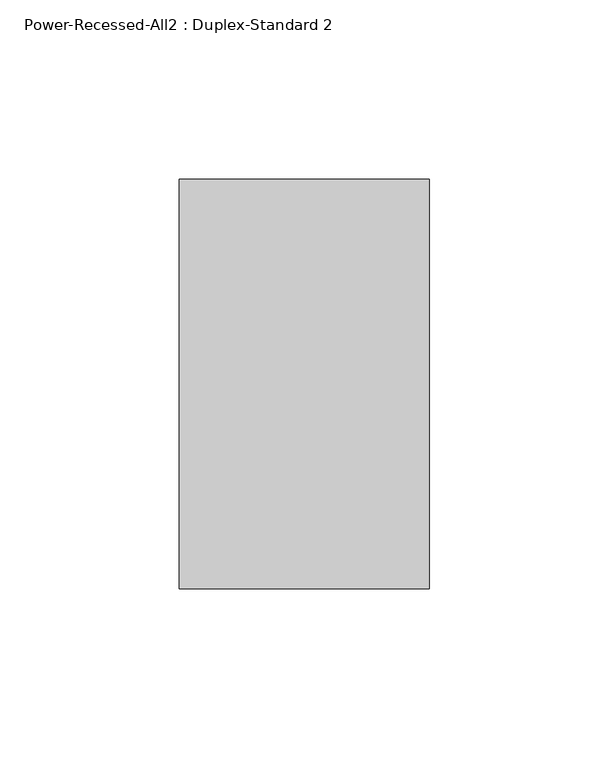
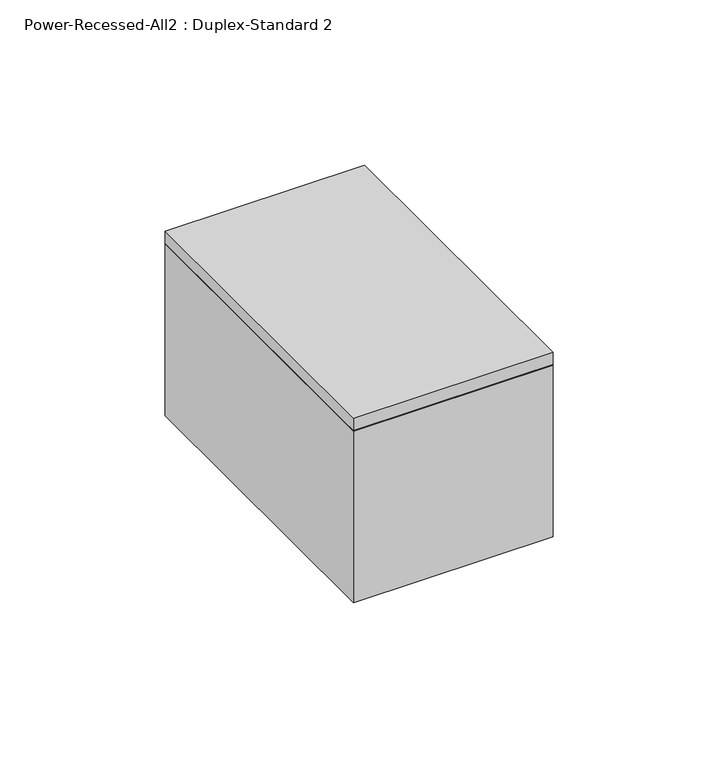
"""IFC4 building model written with IfcOpenShell, lengths in millimetres: outlet geometry, Power-Recessed-All2 : Duplex-Standard 2."""

import ifcopenshell
import ifcopenshell.guid

model = None  # the IFC model being written
_history = None  # IfcOwnerHistory: only IFC2X3 demands one
_inside = {}  # id of a spatial element -> (the spatial element, [elements in it])
_under = {}  # id of a project, library or spatial element -> (it, [spatial elements below it])
_declared = {}  # id of a project -> (the project, [libraries it declares])
_typed = {}  # id of a type object -> (the type object, [elements of that type])
_made_of = {}  # id of a material, layer set ... -> (it, [elements and type objects made of it])


def new_model(schema):
    """Start an empty IFC model of exactly this schema.

    Asked for "IFC4X3", IfcOpenShell would pick the latest addendum, in which some entities
    have other attributes; the version numbers below select the first issue.
    IFC2X3 requires an IfcOwnerHistory on every rooted entity: one is made here for all.
    """
    global model, _history
    if schema == "IFC4X3":
        model = ifcopenshell.file(schema_version=(4, 3, 0, 0))
    else:
        model = ifcopenshell.file(schema=schema)
    _inside.clear()
    _under.clear()
    _declared.clear()
    _typed.clear()
    _made_of.clear()
    _history = None
    if model.schema == "IFC2X3":
        org = make("IfcOrganization", Name="unknown")
        user = make(
            "IfcPersonAndOrganization",
            ThePerson=make("IfcPerson", FamilyName="unknown"),
            TheOrganization=org,
        )
        app = make(
            "IfcApplication",
            ApplicationDeveloper=org,
            Version="unknown",
            ApplicationFullName="unknown",
            ApplicationIdentifier="unknown",
        )
        _history = make(
            "IfcOwnerHistory",
            OwningUser=user,
            OwningApplication=app,
            ChangeAction="ADDED",
            CreationDate=0,
        )
    return model


def make(cls, **values):
    """One entity of the class cls with the attributes given. An attribute that is None is left unset."""
    return model.create_entity(
        cls, **{name: value for name, value in values.items() if value is not None}
    )


def rooted(cls, **values):
    """An entity with a GlobalId (a new one), such as an element, a storey or a relation."""
    return make(cls, GlobalId=ifcopenshell.guid.new(), OwnerHistory=_history, **values)


def si_unit(unit_type, name, prefix=None):
    """IfcSIUnit, for example si_unit("LENGTHUNIT", "METRE", prefix="MILLI")."""
    return make("IfcSIUnit", UnitType=unit_type, Prefix=prefix, Name=name)


def assignment(units):
    """IfcUnitAssignment: the units of a project."""
    return None if units is None else make("IfcUnitAssignment", Units=units)


def point(xyz):
    """IfcCartesianPoint."""
    return None if xyz is None else make("IfcCartesianPoint", Coordinates=xyz)


def direction(xyz):
    """IfcDirection."""
    return None if xyz is None else make("IfcDirection", DirectionRatios=xyz)


def frame(location, z_axis=None, x_axis=None):
    """IfcAxis2Placement3D, a coordinate frame: its origin and axes. An axis left out is left unset."""
    return make(
        "IfcAxis2Placement3D",
        Location=point(location),
        Axis=direction(z_axis),
        RefDirection=direction(x_axis),
    )


def origin():
    """The frame at (0, 0, 0) with its axes left unset."""
    return frame((0.0, 0.0, 0.0))


def origin_with_axes():
    """The frame at (0, 0, 0) with the z axis (0, 0, 1) and the x axis (1, 0, 0) written out."""
    return frame((0.0, 0.0, 0.0), z_axis=(0.0, 0.0, 1.0), x_axis=(1.0, 0.0, 0.0))


def place(relative_to, where):
    """IfcLocalPlacement: puts the frame where relative to a parent placement (None: the world)."""
    return make(
        "IfcLocalPlacement", PlacementRelTo=relative_to, RelativePlacement=where
    )


def context(
    kind, dimensions, precision=None, world=None, true_north=None, identifier=None
):
    """IfcGeometricRepresentationContext, for example the 3D "Model" context."""
    return make(
        "IfcGeometricRepresentationContext",
        ContextIdentifier=identifier,
        ContextType=kind,
        CoordinateSpaceDimension=dimensions,
        Precision=precision,
        WorldCoordinateSystem=world,
        TrueNorth=true_north,
    )


def project(units=None, contexts=None):
    """IfcProject with its units and contexts."""
    return rooted(
        "IfcProject",
        Name="project",
        RepresentationContexts=contexts,
        UnitsInContext=assignment(units),
    )


def spatial(cls, under=None, at=None, **own):
    """A site, building, storey or space (cls), placed at a placement, below another one or the project."""
    s = rooted(cls, ObjectPlacement=at, **own)
    if under is not None:
        _under.setdefault(under.id(), (under, []))[1].append(s)
    return s


def polyline(points):
    """IfcPolyline through the points."""
    return make("IfcPolyline", Points=[point(p) for p in points])


def outline(outer, holes=None, kind="AREA"):
    """IfcArbitraryClosedProfileDef: a profile drawn as a closed curve; with holes, ...WithVoids."""
    if holes is None:
        return make("IfcArbitraryClosedProfileDef", ProfileType=kind, OuterCurve=outer)
    return make(
        "IfcArbitraryProfileDefWithVoids",
        ProfileType=kind,
        OuterCurve=outer,
        InnerCurves=holes,
    )


def extrude(swept, where, along, depth):
    """IfcExtrudedAreaSolid: the profile swept, set in the frame where, extruded along a direction by depth."""
    return make(
        "IfcExtrudedAreaSolid",
        SweptArea=swept,
        Position=where,
        ExtrudedDirection=direction(along),
        Depth=depth,
    )


def shape(context_of_items, identifier, shape_type, items):
    """IfcShapeRepresentation: the items that make up one representation, for example the "Body"."""
    return make(
        "IfcShapeRepresentation",
        ContextOfItems=context_of_items,
        RepresentationIdentifier=identifier,
        RepresentationType=shape_type,
        Items=items,
    )


def source(mapping_origin, context_of_items, identifier, shape_type, items):
    """IfcRepresentationMap: a shape defined once, which mapped items show again and again."""
    return make(
        "IfcRepresentationMap",
        MappingOrigin=mapping_origin,
        MappedRepresentation=shape(context_of_items, identifier, shape_type, items),
    )


def transform(
    local_origin,
    x_axis=None,
    y_axis=None,
    z_axis=None,
    scale=None,
    scale2=None,
    scale3=None,
    uniform=True,
):
    """IfcCartesianTransformationOperator3D, or its non-uniform kind. x_axis, y_axis, z_axis: its Axis1, 2, 3."""
    if uniform:
        return make(
            "IfcCartesianTransformationOperator3D",
            Axis1=direction(x_axis),
            Axis2=direction(y_axis),
            LocalOrigin=point(local_origin),
            Scale=scale,
            Axis3=direction(z_axis),
        )
    return make(
        "IfcCartesianTransformationOperator3DnonUniform",
        Axis1=direction(x_axis),
        Axis2=direction(y_axis),
        LocalOrigin=point(local_origin),
        Scale=scale,
        Axis3=direction(z_axis),
        Scale2=scale2,
        Scale3=scale3,
    )


def mapped(mapping_source, mapping_target):
    """IfcMappedItem: shows the shape of a source again, moved by a transform."""
    return make(
        "IfcMappedItem", MappingSource=mapping_source, MappingTarget=mapping_target
    )


def made_of(thing, what):
    """Note that an element or type object is made of a material, layer set ...; save() writes the relation."""
    if what is not None:
        _made_of.setdefault(what.id(), (what, []))[1].append(thing)
    return thing


def element(
    cls,
    number,
    at=None,
    inside=None,
    cuts=None,
    type_object=None,
    material=None,
    context=None,
    identifier="Body",
    shape_type=None,
    held_by="IfcProductDefinitionShape",
    body=None,
    shapes=None,
    **own,
):
    """One element of the class cls, such as IfcWall. Its Tag is "e" and its number.

    at: its placement. inside: the storey or other place that contains it. cuts: it is an
    opening in that element (IfcRelVoidsElement). A single representation is given by context,
    identifier, shape_type and body (its items); several are given by shapes. held_by: the class
    of the entity that holds the representations. save() writes the other relations.
    """
    e = rooted(cls, Tag="e%d" % number, ObjectPlacement=at, **own)
    if body is not None:
        shapes = [shape(context, identifier, shape_type, body)]
    if shapes is not None:
        e.Representation = make(held_by, Representations=shapes)
    if inside is not None:
        _inside.setdefault(inside.id(), (inside, []))[1].append(e)
    if cuts is not None:
        rooted(
            "IfcRelVoidsElement", RelatingBuildingElement=cuts, RelatedOpeningElement=e
        )
    if type_object is not None:
        _typed.setdefault(type_object.id(), (type_object, []))[1].append(e)
    return made_of(e, material)


def aggregate(whole, parts):
    """IfcRelAggregates: a whole, such as a stair, and the parts it consists of."""
    return rooted("IfcRelAggregates", RelatingObject=whole, RelatedObjects=parts)


def save(model, path):
    """Write the relations noted so far, then the file.

    IfcRelAggregates (storeys below a building ...), IfcRelContainedInSpatialStructure (elements
    in a storey), IfcRelDefinesByType, IfcRelAssociatesMaterial and IfcRelDeclares: one each for
    every whole, place, type object, material and project.
    """
    for whole, parts in _under.values():
        aggregate(whole, parts)
    for where, things in _inside.values():
        rooted(
            "IfcRelContainedInSpatialStructure",
            RelatedElements=things,
            RelatingStructure=where,
        )
    for kind, things in _typed.values():
        rooted("IfcRelDefinesByType", RelatedObjects=things, RelatingType=kind)
    for what, things in _made_of.values():
        rooted("IfcRelAssociatesMaterial", RelatedObjects=things, RelatingMaterial=what)
    for by, libraries in _declared.values():
        rooted("IfcRelDeclares", RelatingContext=by, RelatedDefinitions=libraries)
    model.write(path)


def power_recessed_all2_duplex_standard_2_0b10a376(model_context):
    return source(origin(), model_context, "Body", "SweptSolid", [
        extrude(outline(polyline([(34.925, 57.15), (34.925, -57.15), (-34.925, -57.15), (-34.925, 57.15), (34.925, 57.15)])), frame((0.0, 0.0, -63.5), z_axis=(0.0, 0.0, 1.0), x_axis=(1.0, 0.0, 0.0)), (0.0, 0.0, 1.0), 63.5),
        extrude(outline(polyline([(34.925, 57.15), (34.925, -57.15), (-34.925, -57.15), (-34.925, 57.15), (34.925, 57.15)])), origin_with_axes(), (0.0, 0.0, 1.0), 4.7625),
    ])


if __name__ == "__main__":
    model = new_model("IFC4")
    model_context = context("Model", 3, world=origin())
    ifc_project = project(units=[si_unit("LENGTHUNIT", "METRE", prefix="MILLI")], contexts=[model_context])
    site = spatial("IfcSite", under=ifc_project)
    building = spatial("IfcBuilding", under=site)
    placement = place(None, origin())
    power_recessed_all2_duplex_standard_2_shape = power_recessed_all2_duplex_standard_2_0b10a376(model_context)
    element("IfcOutlet", 1, ObjectType="Power-Recessed-All2 : Duplex-Standard 2", at=placement, inside=building, context=model_context, shape_type="MappedRepresentation", body=[
        mapped(power_recessed_all2_duplex_standard_2_shape, transform((0.0, 0.0, 0.0), x_axis=(1.0, 0.0, 0.0), y_axis=(0.0, 1.0, 0.0), z_axis=(0.0, 0.0, 1.0))),
    ])
    save(model, "model.ifc")
